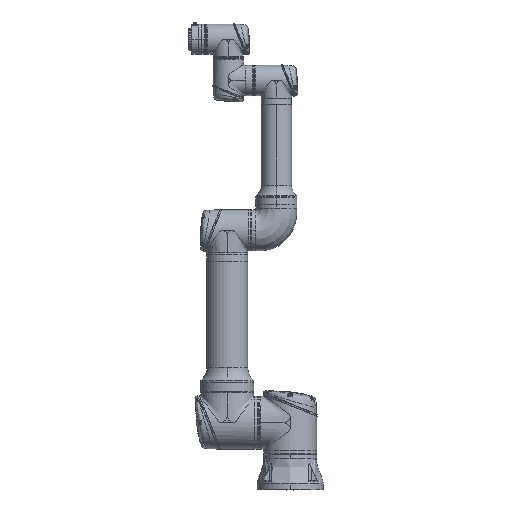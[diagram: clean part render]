
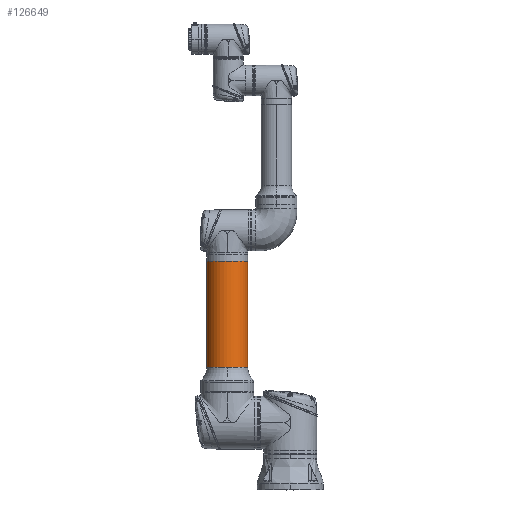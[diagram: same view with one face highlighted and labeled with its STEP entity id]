
A CAD part, top view. The second image highlights one B-rep face of the part: STEP entity #126649.
In plain terms, the highlighted cylindrical face has radius 59 mm (diameter 118 mm), a partial arc.
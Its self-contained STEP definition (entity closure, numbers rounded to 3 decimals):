
#3277 = AXIS2_PLACEMENT_3D ( 'NONE', #87940, #327663, #159360 ) ;
#39358 = VERTEX_POINT ( 'NONE', #387928 ) ;
#45041 = EDGE_LOOP ( 'NONE', ( #301012, #69854, #79812, #71618, #317478 ) ) ;
#69854 = ORIENTED_EDGE ( 'NONE', *, *, #394636, .T. ) ;
#71618 = ORIENTED_EDGE ( 'NONE', *, *, #378457, .F. ) ;
#79812 = ORIENTED_EDGE ( 'NONE', *, *, #180587, .T. ) ;
#87940 = CARTESIAN_POINT ( 'NONE',  ( 463.1, 0., 0. ) ) ;
#96156 = DIRECTION ( 'NONE',  ( 1., 0., 0. ) ) ;
#104283 = DIRECTION ( 'NONE',  ( 0., 1., 0. ) ) ;
#105100 = CARTESIAN_POINT ( 'NONE',  ( 562.7, 0., 59. ) ) ;
#108291 = VERTEX_POINT ( 'NONE', #188732 ) ;
#114838 = DIRECTION ( 'NONE',  ( 1., 0., 0. ) ) ;
#122539 = VERTEX_POINT ( 'NONE', #226801 ) ;
#126649 = ADVANCED_FACE ( 'NONE', ( #334967 ), #398863, .T. ) ;
#134506 = CARTESIAN_POINT ( 'NONE',  ( 562.7, 0., 0. ) ) ;
#135308 = CIRCLE ( 'NONE', #3277, 59. ) ;
#135561 = CARTESIAN_POINT ( 'NONE',  ( 158.463, 0., 0. ) ) ;
#137380 = EDGE_CURVE ( 'NONE', #287310, #308847, #422445, .T. ) ;
#146529 = CARTESIAN_POINT ( 'NONE',  ( 158.463, 0., -59. ) ) ;
#150448 = CARTESIAN_POINT ( 'NONE',  ( 562.7, 0., -59. ) ) ;
#159360 = DIRECTION ( 'NONE',  ( 0., 0., -1. ) ) ;
#171266 = VECTOR ( 'NONE', #96156, 1000. ) ;
#173630 = CIRCLE ( 'NONE', #244215, 59. ) ;
#180587 = EDGE_CURVE ( 'NONE', #39358, #108291, #357405, .T. ) ;
#182903 = VECTOR ( 'NONE', #114838, 1000. ) ;
#188732 = CARTESIAN_POINT ( 'NONE',  ( 463.1, 0., 59. ) ) ;
#226801 = CARTESIAN_POINT ( 'NONE',  ( 158.463, 59., 0. ) ) ;
#233786 = CIRCLE ( 'NONE', #419430, 59. ) ;
#244215 = AXIS2_PLACEMENT_3D ( 'NONE', #135561, #404939, #406419 ) ;
#273121 = AXIS2_PLACEMENT_3D ( 'NONE', #134506, #338518, #402399 ) ;
#287310 = VERTEX_POINT ( 'NONE', #146529 ) ;
#288812 = CARTESIAN_POINT ( 'NONE',  ( 463.1, 0., -59. ) ) ;
#301012 = ORIENTED_EDGE ( 'NONE', *, *, #347737, .T. ) ;
#308847 = VERTEX_POINT ( 'NONE', #288812 ) ;
#317478 = ORIENTED_EDGE ( 'NONE', *, *, #137380, .F. ) ;
#327663 = DIRECTION ( 'NONE',  ( 1., 0., 0. ) ) ;
#334967 = FACE_OUTER_BOUND ( 'NONE', #45041, .T. ) ;
#338518 = DIRECTION ( 'NONE',  ( 1., 0., 0. ) ) ;
#341015 = DIRECTION ( 'NONE',  ( 1., 0., 0. ) ) ;
#347737 = EDGE_CURVE ( 'NONE', #287310, #122539, #173630, .T. ) ;
#357405 = LINE ( 'NONE', #105100, #171266 ) ;
#378457 = EDGE_CURVE ( 'NONE', #308847, #108291, #135308, .T. ) ;
#387928 = CARTESIAN_POINT ( 'NONE',  ( 158.463, 0., 59. ) ) ;
#394636 = EDGE_CURVE ( 'NONE', #122539, #39358, #233786, .T. ) ;
#398863 = CYLINDRICAL_SURFACE ( 'NONE', #273121, 59. ) ;
#402399 = DIRECTION ( 'NONE',  ( 0., 0., -1. ) ) ;
#404939 = DIRECTION ( 'NONE',  ( 1., 0., 0. ) ) ;
#406419 = DIRECTION ( 'NONE',  ( 0., 1., 0. ) ) ;
#419430 = AXIS2_PLACEMENT_3D ( 'NONE', #431905, #341015, #104283 ) ;
#422445 = LINE ( 'NONE', #150448, #182903 ) ;
#431905 = CARTESIAN_POINT ( 'NONE',  ( 158.463, 0., 0. ) ) ;
